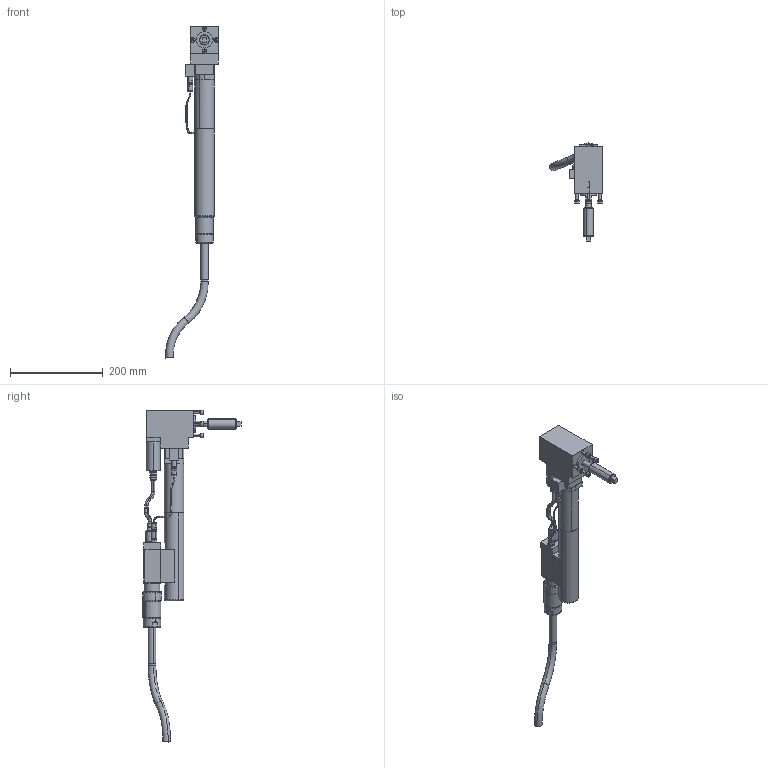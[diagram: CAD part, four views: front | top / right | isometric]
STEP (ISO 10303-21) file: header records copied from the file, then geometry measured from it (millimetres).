
FILE_DESCRIPTION(('CATIA V5 STEP Exchange'),'2;1');
FILE_NAME('O:\3D-Schrauber\Einschauschrauber Groesse1 CATIA V4+V5\7920281_ECR103_W1_AWD125-35_AllCATPart.stp','2008-11-06T10:36:18+00:00',('none'),('none'),'CATIA Version 5 Release 16 (IN-10)','CATIA V5 STEP AP203','none');
FILE_SCHEMA(('CONFIG_CONTROL_DESIGN'));
Length unit declared in the file: millimetre
Products named in the file (1): 7920281_ECR103_W1_AWD125-35_AllCATPart
Bounding box: 113.82 x 212.23 x 716.16 mm (x, y, z)
Volume: 1390600.8 mm3; surface area: 183726.7 mm2
Topology: 21 solids, 21 shells, 513 faces, 1158 edges, 726 vertices
Faces by surface type: plane 231, cylinder 174, cone 56, torus 48, bspline 4
Entity records: 13733 total; most frequent: CARTESIAN_POINT 3024, ORIENTED_EDGE 2296, DIRECTION 1840, EDGE_CURVE 1148, AXIS2_PLACEMENT_3D 906, VERTEX_POINT 725, VECTOR 563, LINE 563
